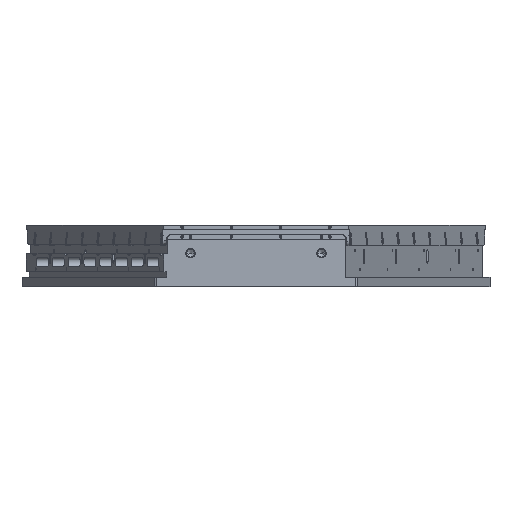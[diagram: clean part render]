
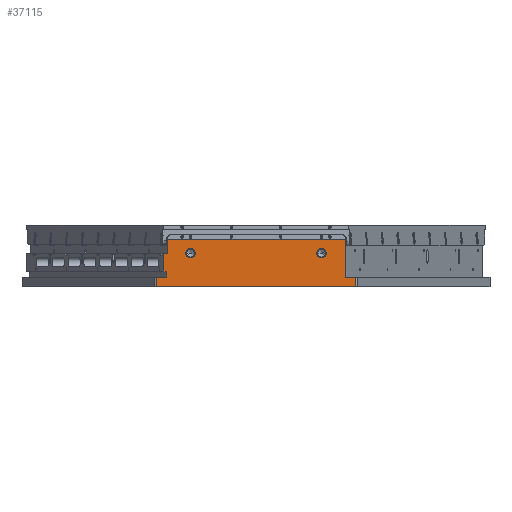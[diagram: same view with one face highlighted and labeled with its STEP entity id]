
A CAD part, front view. The second image highlights one B-rep face of the part: STEP entity #37115.
In plain terms, the highlighted planar face has unit normal (0, -1, 0).
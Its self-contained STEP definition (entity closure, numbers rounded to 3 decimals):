
#4173=DIRECTION('',(-1.,0.,0.));
#4174=VECTOR('',#4173,10.637);
#4175=CARTESIAN_POINT('',(5.319,-27.373,-3.3));
#4176=LINE('',#4175,#4174);
#6032=DIRECTION('',(0.,0.,-1.));
#6033=VECTOR('',#6032,0.78);
#6034=CARTESIAN_POINT('',(-4.718,-27.373,-0.75));
#6035=LINE('',#6034,#6033);
#6713=DIRECTION('',(0.,0.,1.));
#6714=VECTOR('',#6713,2.032);
#6715=CARTESIAN_POINT('',(4.772,-27.373,-2.782));
#6716=LINE('',#6715,#6714);
#8484=DIRECTION('',(-1.,0.,0.));
#8485=VECTOR('',#8484,0.546);
#8486=CARTESIAN_POINT('',(-4.773,-27.373,-2.782));
#8487=LINE('',#8486,#8485);
#8503=DIRECTION('',(-1.,0.,0.));
#8504=VECTOR('',#8503,0.546);
#8505=CARTESIAN_POINT('',(5.319,-27.373,-2.782));
#8506=LINE('',#8505,#8504);
#8523=CARTESIAN_POINT('',(3.5,-27.373,-1.5));
#8524=DIRECTION('',(0.,-1.,0.));
#8525=DIRECTION('',(-1.,0.,0.));
#8526=AXIS2_PLACEMENT_3D('',#8523,#8524,#8525);
#8528=CARTESIAN_POINT('',(3.5,-27.373,-1.5));
#8529=DIRECTION('',(0.,-1.,0.));
#8530=DIRECTION('',(1.,0.,0.));
#8531=AXIS2_PLACEMENT_3D('',#8528,#8529,#8530);
#8533=CARTESIAN_POINT('',(-3.5,-27.373,-1.5));
#8534=DIRECTION('',(0.,1.,0.));
#8535=DIRECTION('',(1.,0.,0.));
#8536=AXIS2_PLACEMENT_3D('',#8533,#8534,#8535);
#8538=CARTESIAN_POINT('',(-3.5,-27.373,-1.5));
#8539=DIRECTION('',(0.,1.,0.));
#8540=DIRECTION('',(-1.,0.,0.));
#8541=AXIS2_PLACEMENT_3D('',#8538,#8539,#8540);
#8543=DIRECTION('',(1.,0.,0.));
#8544=VECTOR('',#8543,9.491);
#8545=CARTESIAN_POINT('',(-4.718,-27.373,-0.75));
#8546=LINE('',#8545,#8544);
#8547=DIRECTION('',(0.,0.,-1.));
#8548=VECTOR('',#8547,0.518);
#8549=CARTESIAN_POINT('',(5.319,-27.373,-2.782));
#8550=LINE('',#8549,#8548);
#8551=DIRECTION('',(0.,0.,-1.));
#8552=VECTOR('',#8551,0.518);
#8553=CARTESIAN_POINT('',(-5.319,-27.373,-2.782));
#8554=LINE('',#8553,#8552);
#8555=DIRECTION('',(0.,0.,-1.));
#8556=VECTOR('',#8555,0.3);
#8557=CARTESIAN_POINT('',(-4.773,-27.373,-2.482));
#8558=LINE('',#8557,#8556);
#8559=DIRECTION('',(-1.,0.,0.));
#8560=VECTOR('',#8559,0.153);
#8561=CARTESIAN_POINT('',(-4.773,-27.373,-2.482));
#8562=LINE('',#8561,#8560);
#8563=DIRECTION('',(0.,0.,-1.));
#8564=VECTOR('',#8563,0.952);
#8565=CARTESIAN_POINT('',(-4.925,-27.373,-1.53));
#8566=LINE('',#8565,#8564);
#8567=DIRECTION('',(-1.,0.,0.));
#8568=VECTOR('',#8567,0.207);
#8569=CARTESIAN_POINT('',(-4.718,-27.373,-1.53));
#8570=LINE('',#8569,#8568);
#23565=CARTESIAN_POINT('',(4.772,-27.373,-2.782));
#23567=VERTEX_POINT('',#23565);
#23568=CARTESIAN_POINT('',(-4.773,-27.373,-2.482));
#23569=CARTESIAN_POINT('',(-4.773,-27.373,-2.782));
#23570=VERTEX_POINT('',#23568);
#23571=VERTEX_POINT('',#23569);
#23572=CARTESIAN_POINT('',(-4.925,-27.373,-2.482));
#23573=VERTEX_POINT('',#23572);
#23580=CARTESIAN_POINT('',(-4.718,-27.373,-1.53));
#23581=CARTESIAN_POINT('',(-4.925,-27.373,-1.53));
#23582=VERTEX_POINT('',#23580);
#23583=VERTEX_POINT('',#23581);
#26346=CARTESIAN_POINT('',(3.25,-27.373,-1.5));
#26347=CARTESIAN_POINT('',(3.75,-27.373,-1.5));
#26348=VERTEX_POINT('',#26346);
#26349=VERTEX_POINT('',#26347);
#26360=CARTESIAN_POINT('',(-3.25,-27.373,-1.5));
#26361=VERTEX_POINT('',#26360);
#26362=CARTESIAN_POINT('',(-3.75,-27.373,-1.5));
#26363=VERTEX_POINT('',#26362);
#28860=CARTESIAN_POINT('',(-5.319,-27.373,-3.3));
#28862=VERTEX_POINT('',#28860);
#28866=CARTESIAN_POINT('',(-5.319,-27.373,-2.782));
#28867=VERTEX_POINT('',#28866);
#28869=CARTESIAN_POINT('',(5.319,-27.373,-3.3));
#28871=VERTEX_POINT('',#28869);
#28872=CARTESIAN_POINT('',(5.319,-27.373,-2.782));
#28873=VERTEX_POINT('',#28872);
#28930=CARTESIAN_POINT('',(-4.718,-27.373,-0.75));
#28931=CARTESIAN_POINT('',(4.772,-27.373,-0.75));
#28932=VERTEX_POINT('',#28930);
#28933=VERTEX_POINT('',#28931);
#37079=CARTESIAN_POINT('',(-5.415,-27.373,0.));
#37080=DIRECTION('',(0.,-1.,0.));
#37081=DIRECTION('',(1.,0.,0.));
#37082=AXIS2_PLACEMENT_3D('',#37079,#37080,#37081);
#37083=PLANE('',#37082);
#37084=ORIENTED_EDGE('',*,*,#34014,.F.);
#37086=ORIENTED_EDGE('',*,*,#37085,.T.);
#37087=ORIENTED_EDGE('',*,*,#34375,.F.);
#37088=ORIENTED_EDGE('',*,*,#37051,.F.);
#37090=ORIENTED_EDGE('',*,*,#37089,.T.);
#37091=ORIENTED_EDGE('',*,*,#32240,.T.);
#37093=ORIENTED_EDGE('',*,*,#37092,.F.);
#37094=ORIENTED_EDGE('',*,*,#37027,.F.);
#37095=ORIENTED_EDGE('',*,*,#37063,.F.);
#37097=ORIENTED_EDGE('',*,*,#37096,.T.);
#37098=ORIENTED_EDGE('',*,*,#33534,.F.);
#37100=ORIENTED_EDGE('',*,*,#37099,.F.);
#37101=EDGE_LOOP('',(#37084,#37086,#37087,#37088,#37090,#37091,#37093,#37094,
#37095,#37097,#37098,#37100));
#37102=FACE_OUTER_BOUND('',#37101,.F.);
#37104=ORIENTED_EDGE('',*,*,#37103,.F.);
#37106=ORIENTED_EDGE('',*,*,#37105,.F.);
#37107=EDGE_LOOP('',(#37104,#37106));
#37108=FACE_BOUND('',#37107,.F.);
#37110=ORIENTED_EDGE('',*,*,#37109,.T.);
#37112=ORIENTED_EDGE('',*,*,#37111,.T.);
#37113=EDGE_LOOP('',(#37110,#37112));
#37114=FACE_BOUND('',#37113,.F.);
#37115=ADVANCED_FACE('',(#37102,#37108,#37114),#37083,.T.);
#8527=CIRCLE('',#8526,0.25);
#8532=CIRCLE('',#8531,0.25);
#8537=CIRCLE('',#8536,0.25);
#8542=CIRCLE('',#8541,0.25);
#32240=EDGE_CURVE('',#28871,#28862,#4176,.T.);
#33534=EDGE_CURVE('',#23583,#23573,#8566,.T.);
#34014=EDGE_CURVE('',#28932,#23582,#6035,.T.);
#34375=EDGE_CURVE('',#23567,#28933,#6716,.T.);
#37027=EDGE_CURVE('',#23571,#28867,#8487,.T.);
#37051=EDGE_CURVE('',#28873,#23567,#8506,.T.);
#37063=EDGE_CURVE('',#23570,#23571,#8558,.T.);
#37085=EDGE_CURVE('',#28932,#28933,#8546,.T.);
#37089=EDGE_CURVE('',#28873,#28871,#8550,.T.);
#37092=EDGE_CURVE('',#28867,#28862,#8554,.T.);
#37096=EDGE_CURVE('',#23570,#23573,#8562,.T.);
#37099=EDGE_CURVE('',#23582,#23583,#8570,.T.);
#37103=EDGE_CURVE('',#26361,#26363,#8537,.T.);
#37105=EDGE_CURVE('',#26363,#26361,#8542,.T.);
#37109=EDGE_CURVE('',#26348,#26349,#8527,.T.);
#37111=EDGE_CURVE('',#26349,#26348,#8532,.T.);
